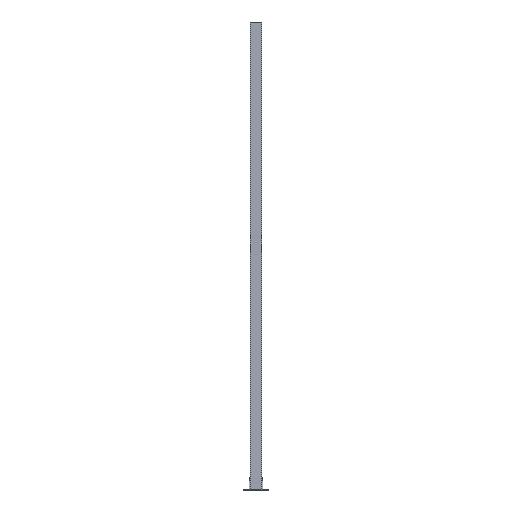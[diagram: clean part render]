
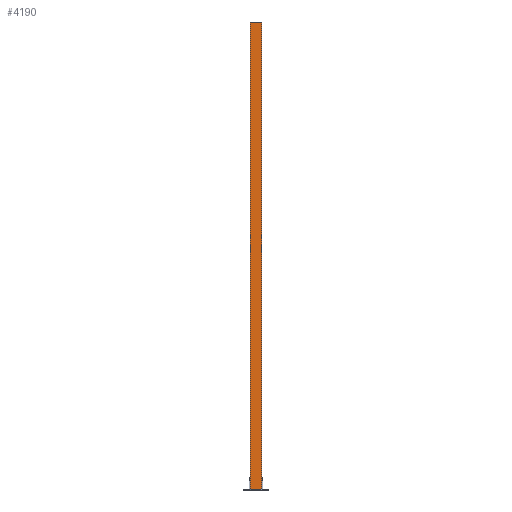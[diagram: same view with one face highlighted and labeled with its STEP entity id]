
A CAD part, front view. The second image highlights one B-rep face of the part: STEP entity #4190.
In plain terms, the highlighted planar face has unit normal (0, -1, 0).
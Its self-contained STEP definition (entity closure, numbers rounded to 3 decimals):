
#3666 = VERTEX_POINT('',#3667);
#3667 = CARTESIAN_POINT('',(25.,-25.,2000.));
#3676 = PLANE('',#3677);
#3677 = AXIS2_PLACEMENT_3D('',#3678,#3679,#3680);
#3678 = CARTESIAN_POINT('',(0.,0.,2000.));
#3679 = DIRECTION('',(0.,0.,-1.));
#3680 = DIRECTION('',(-1.,0.,-0.));
#3688 = PLANE('',#3689);
#3689 = AXIS2_PLACEMENT_3D('',#3690,#3691,#3692);
#3690 = CARTESIAN_POINT('',(25.,-25.,2000.));
#3691 = DIRECTION('',(-1.,0.,0.));
#3692 = DIRECTION('',(0.,0.,1.));
#3729 = VERTEX_POINT('',#3730);
#3730 = CARTESIAN_POINT('',(-25.,-25.,2000.));
#3744 = PLANE('',#3745);
#3745 = AXIS2_PLACEMENT_3D('',#3746,#3747,#3748);
#3746 = CARTESIAN_POINT('',(-25.,-25.,2000.));
#3747 = DIRECTION('',(1.,0.,-0.));
#3748 = DIRECTION('',(0.,1.,0.));
#3756 = EDGE_CURVE('',#3729,#3666,#3757,.T.);
#3757 = SURFACE_CURVE('',#3758,(#3762,#3769),.PCURVE_S1.);
#3758 = LINE('',#3759,#3760);
#3759 = CARTESIAN_POINT('',(-25.,-25.,2000.));
#3760 = VECTOR('',#3761,1.);
#3761 = DIRECTION('',(1.,0.,0.));
#3762 = PCURVE('',#3676,#3763);
#3763 = DEFINITIONAL_REPRESENTATION('',(#3764),#3768);
#3764 = LINE('',#3765,#3766);
#3765 = CARTESIAN_POINT('',(25.,-25.));
#3766 = VECTOR('',#3767,1.);
#3767 = DIRECTION('',(-1.,0.));
#3768 = ( GEOMETRIC_REPRESENTATION_CONTEXT(2) 
PARAMETRIC_REPRESENTATION_CONTEXT() REPRESENTATION_CONTEXT('2D SPACE',''
  ) );
#3769 = PCURVE('',#3770,#3775);
#3770 = PLANE('',#3771);
#3771 = AXIS2_PLACEMENT_3D('',#3772,#3773,#3774);
#3772 = CARTESIAN_POINT('',(-25.,-25.,2000.));
#3773 = DIRECTION('',(0.,1.,0.));
#3774 = DIRECTION('',(0.,-0.,1.));
#3775 = DEFINITIONAL_REPRESENTATION('',(#3776),#3780);
#3776 = LINE('',#3777,#3778);
#3777 = CARTESIAN_POINT('',(0.,0.));
#3778 = VECTOR('',#3779,1.);
#3779 = DIRECTION('',(0.,1.));
#3780 = ( GEOMETRIC_REPRESENTATION_CONTEXT(2) 
PARAMETRIC_REPRESENTATION_CONTEXT() REPRESENTATION_CONTEXT('2D SPACE',''
  ) );
#3900 = VERTEX_POINT('',#3901);
#3901 = CARTESIAN_POINT('',(25.,-25.,0.));
#3910 = PLANE('',#3911);
#3911 = AXIS2_PLACEMENT_3D('',#3912,#3913,#3914);
#3912 = CARTESIAN_POINT('',(0.,0.,0.));
#3913 = DIRECTION('',(0.,0.,-1.));
#3914 = DIRECTION('',(-1.,0.,-0.));
#3929 = EDGE_CURVE('',#3930,#3900,#3932,.T.);
#3930 = VERTEX_POINT('',#3931);
#3931 = CARTESIAN_POINT('',(-25.,-25.,0.));
#3932 = SURFACE_CURVE('',#3933,(#3937,#3944),.PCURVE_S1.);
#3933 = LINE('',#3934,#3935);
#3934 = CARTESIAN_POINT('',(-25.,-25.,0.));
#3935 = VECTOR('',#3936,1.);
#3936 = DIRECTION('',(1.,0.,0.));
#3937 = PCURVE('',#3910,#3938);
#3938 = DEFINITIONAL_REPRESENTATION('',(#3939),#3943);
#3939 = LINE('',#3940,#3941);
#3940 = CARTESIAN_POINT('',(25.,-25.));
#3941 = VECTOR('',#3942,1.);
#3942 = DIRECTION('',(-1.,0.));
#3943 = ( GEOMETRIC_REPRESENTATION_CONTEXT(2) 
PARAMETRIC_REPRESENTATION_CONTEXT() REPRESENTATION_CONTEXT('2D SPACE',''
  ) );
#3944 = PCURVE('',#3770,#3945);
#3945 = DEFINITIONAL_REPRESENTATION('',(#3946),#3950);
#3946 = LINE('',#3947,#3948);
#3947 = CARTESIAN_POINT('',(-2000.,0.));
#3948 = VECTOR('',#3949,1.);
#3949 = DIRECTION('',(0.,1.));
#3950 = ( GEOMETRIC_REPRESENTATION_CONTEXT(2) 
PARAMETRIC_REPRESENTATION_CONTEXT() REPRESENTATION_CONTEXT('2D SPACE',''
  ) );
#4116 = EDGE_CURVE('',#3666,#3900,#4117,.T.);
#4117 = SURFACE_CURVE('',#4118,(#4122,#4129),.PCURVE_S1.);
#4118 = LINE('',#4119,#4120);
#4119 = CARTESIAN_POINT('',(25.,-25.,2000.));
#4120 = VECTOR('',#4121,1.);
#4121 = DIRECTION('',(-0.,-0.,-1.));
#4122 = PCURVE('',#3688,#4123);
#4123 = DEFINITIONAL_REPRESENTATION('',(#4124),#4128);
#4124 = LINE('',#4125,#4126);
#4125 = CARTESIAN_POINT('',(0.,0.));
#4126 = VECTOR('',#4127,1.);
#4127 = DIRECTION('',(-1.,0.));
#4128 = ( GEOMETRIC_REPRESENTATION_CONTEXT(2) 
PARAMETRIC_REPRESENTATION_CONTEXT() REPRESENTATION_CONTEXT('2D SPACE',''
  ) );
#4129 = PCURVE('',#3770,#4130);
#4130 = DEFINITIONAL_REPRESENTATION('',(#4131),#4135);
#4131 = LINE('',#4132,#4133);
#4132 = CARTESIAN_POINT('',(0.,50.));
#4133 = VECTOR('',#4134,1.);
#4134 = DIRECTION('',(-1.,0.));
#4135 = ( GEOMETRIC_REPRESENTATION_CONTEXT(2) 
PARAMETRIC_REPRESENTATION_CONTEXT() REPRESENTATION_CONTEXT('2D SPACE',''
  ) );
#4168 = EDGE_CURVE('',#3729,#3930,#4169,.T.);
#4169 = SURFACE_CURVE('',#4170,(#4174,#4181),.PCURVE_S1.);
#4170 = LINE('',#4171,#4172);
#4171 = CARTESIAN_POINT('',(-25.,-25.,2000.));
#4172 = VECTOR('',#4173,1.);
#4173 = DIRECTION('',(-0.,-0.,-1.));
#4174 = PCURVE('',#3744,#4175);
#4175 = DEFINITIONAL_REPRESENTATION('',(#4176),#4180);
#4176 = LINE('',#4177,#4178);
#4177 = CARTESIAN_POINT('',(0.,0.));
#4178 = VECTOR('',#4179,1.);
#4179 = DIRECTION('',(0.,-1.));
#4180 = ( GEOMETRIC_REPRESENTATION_CONTEXT(2) 
PARAMETRIC_REPRESENTATION_CONTEXT() REPRESENTATION_CONTEXT('2D SPACE',''
  ) );
#4181 = PCURVE('',#3770,#4182);
#4182 = DEFINITIONAL_REPRESENTATION('',(#4183),#4187);
#4183 = LINE('',#4184,#4185);
#4184 = CARTESIAN_POINT('',(0.,0.));
#4185 = VECTOR('',#4186,1.);
#4186 = DIRECTION('',(-1.,0.));
#4187 = ( GEOMETRIC_REPRESENTATION_CONTEXT(2) 
PARAMETRIC_REPRESENTATION_CONTEXT() REPRESENTATION_CONTEXT('2D SPACE',''
  ) );
#4190 = ADVANCED_FACE('',(#4191),#3770,.F.);
#4191 = FACE_BOUND('',#4192,.T.);
#4192 = EDGE_LOOP('',(#4193,#4194,#4195,#4196));
#4193 = ORIENTED_EDGE('',*,*,#3929,.T.);
#4194 = ORIENTED_EDGE('',*,*,#4116,.F.);
#4195 = ORIENTED_EDGE('',*,*,#3756,.F.);
#4196 = ORIENTED_EDGE('',*,*,#4168,.T.);
